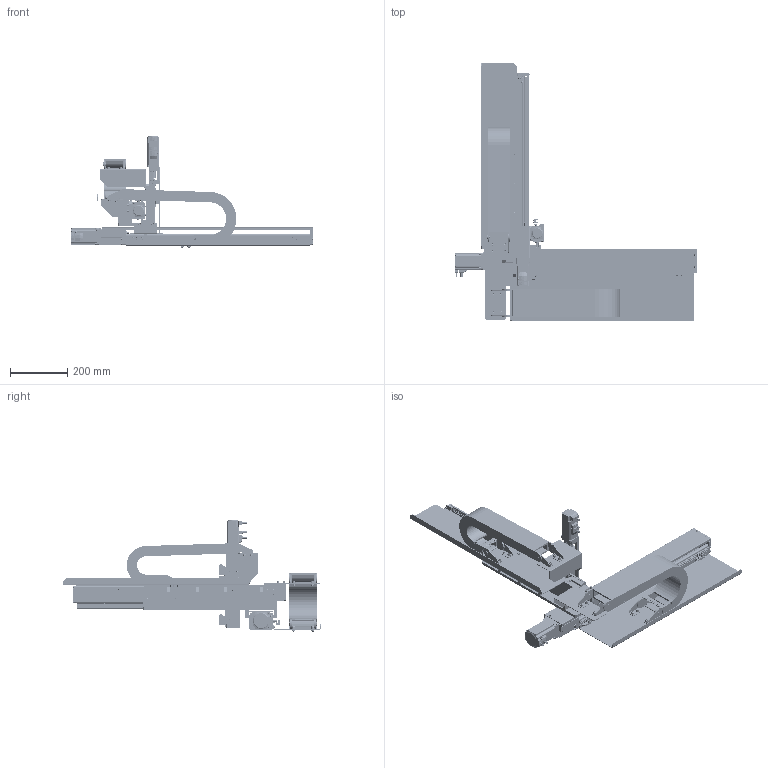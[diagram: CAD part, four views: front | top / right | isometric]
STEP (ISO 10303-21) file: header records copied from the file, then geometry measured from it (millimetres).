
FILE_DESCRIPTION(('CATIA V5 STEP Exchange'),'2;1');
FILE_NAME('C:\Users\18130\Desktop\オリムベクスタ：TSKR46SKR33SKR26\3DCAD\再提出\TSKR46SKR33SKR26-4026549_Q4026549X000.stp','2021-10-19T01:23:39+00:00',('none'),('none'),'Version 5-6 Release 2012','CATIA V5 STEP AP203','none');
FILE_SCHEMA(('CONFIG_CONTROL_DESIGN'));
Products named in the file (1): TSKR46SKR33SKR26-4026549_Q4026549X000
Assembly tree (9 placements, depth 2):
  TSKR46SKR33SKR26-4026549_Q4026549X000
    #57
    #65080
    #122966
    #185445
    #209640
    #233845
    #283601
    #298931
    #305026
Bounding box: 848 x 899 x 388.9 mm (x, y, z)
Volume: 6965098.3 mm3; surface area: 2417536 mm2
Topology: 13 solids, 168 shells, 11076 faces, 28442 edges, 18192 vertices
Faces by surface type: plane 5492, cylinder 3803, cone 1420, torus 290, sphere 55, revolution 16
Entity records: 308931 total; most frequent: CARTESIAN_POINT 63595, ORIENTED_EDGE 56332, DIRECTION 39082, EDGE_CURVE 28166, VERTEX_POINT 18192, VECTOR 16406, LINE 16406, AXIS2_PLACEMENT_3D 16194
